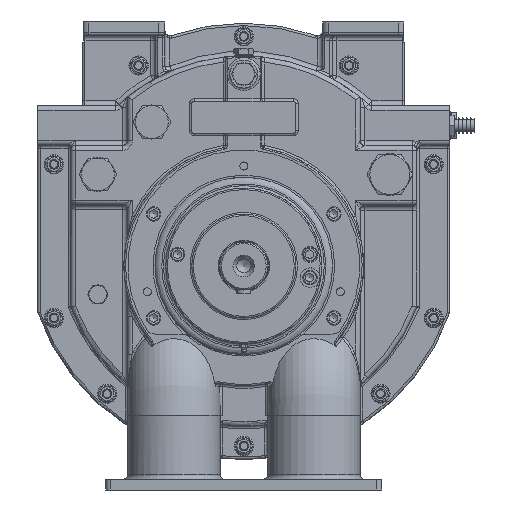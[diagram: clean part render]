
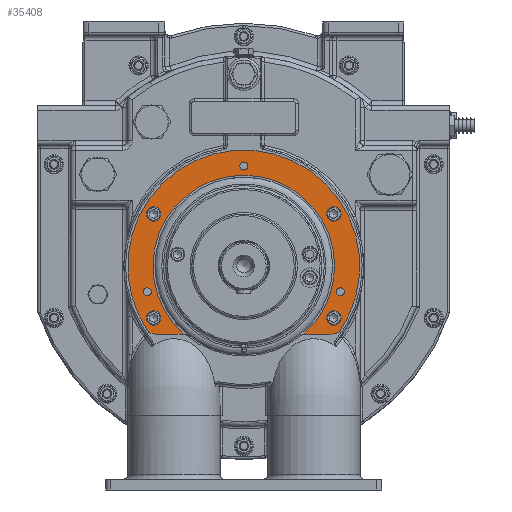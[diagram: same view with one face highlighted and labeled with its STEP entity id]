
A CAD part, left-side view. The second image highlights one B-rep face of the part: STEP entity #35408.
In plain terms, the highlighted planar face has unit normal (-1, 0, 0).
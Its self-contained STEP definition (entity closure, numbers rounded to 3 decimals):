
#1359=FACE_BOUND('',#5081,.T.);
#1360=FACE_BOUND('',#5082,.T.);
#1361=FACE_BOUND('',#5083,.T.);
#1362=FACE_BOUND('',#5084,.T.);
#1363=FACE_BOUND('',#5085,.T.);
#1364=FACE_BOUND('',#5086,.T.);
#1365=FACE_BOUND('',#5087,.T.);
#1884=PLANE('',#37990);
#2964=FACE_OUTER_BOUND('',#5080,.T.);
#5080=EDGE_LOOP('',(#24561,#24562,#24563,#24564,#24565,#24566,#24567,#24568));
#5081=EDGE_LOOP('',(#24569));
#5082=EDGE_LOOP('',(#24570));
#5083=EDGE_LOOP('',(#24571));
#5084=EDGE_LOOP('',(#24572));
#5085=EDGE_LOOP('',(#24573));
#5086=EDGE_LOOP('',(#24574));
#5087=EDGE_LOOP('',(#24575));
#7693=CIRCLE('',#37814,9.);
#7698=CIRCLE('',#37829,9.);
#7703=CIRCLE('',#37844,9.);
#7708=CIRCLE('',#37859,9.);
#7752=CIRCLE('',#37965,6.);
#7756=CIRCLE('',#37971,6.);
#7758=CIRCLE('',#37974,5.053);
#7760=CIRCLE('',#37977,5.053);
#7762=CIRCLE('',#37980,5.053);
#7770=CIRCLE('',#37991,20.);
#7771=CIRCLE('',#37992,145.);
#7772=CIRCLE('',#37993,20.);
#7773=CIRCLE('',#37994,113.5);
#9892=LINE('',#55406,#11833);
#9903=LINE('',#55504,#11844);
#11833=VECTOR('',#43596,10.);
#11844=VECTOR('',#43665,10.);
#14020=VERTEX_POINT('',#54804);
#14038=VERTEX_POINT('',#54872);
#14056=VERTEX_POINT('',#54940);
#14074=VERTEX_POINT('',#55008);
#14173=VERTEX_POINT('',#55403);
#14174=VERTEX_POINT('',#55405);
#14178=VERTEX_POINT('',#55415);
#14182=VERTEX_POINT('',#55427);
#14183=VERTEX_POINT('',#55429);
#14185=VERTEX_POINT('',#55435);
#14187=VERTEX_POINT('',#55441);
#14189=VERTEX_POINT('',#55447);
#14198=VERTEX_POINT('',#55503);
#14199=VERTEX_POINT('',#55505);
#14200=VERTEX_POINT('',#55507);
#17779=EDGE_CURVE('',#14020,#14020,#7693,.T.);
#17805=EDGE_CURVE('',#14038,#14038,#7698,.T.);
#17831=EDGE_CURVE('',#14056,#14056,#7703,.T.);
#17857=EDGE_CURVE('',#14074,#14074,#7708,.T.);
#18006=EDGE_CURVE('',#14173,#14174,#9892,.T.);
#18012=EDGE_CURVE('',#14178,#14173,#7752,.T.);
#18018=EDGE_CURVE('',#14182,#14183,#7756,.T.);
#18021=EDGE_CURVE('',#14185,#14185,#7758,.T.);
#18024=EDGE_CURVE('',#14187,#14187,#7760,.T.);
#18027=EDGE_CURVE('',#14189,#14189,#7762,.T.);
#18038=EDGE_CURVE('',#14198,#14182,#9903,.T.);
#18039=EDGE_CURVE('',#14199,#14198,#7770,.T.);
#18040=EDGE_CURVE('',#14200,#14199,#7771,.T.);
#18041=EDGE_CURVE('',#14174,#14200,#7772,.T.);
#18042=EDGE_CURVE('',#14183,#14178,#7773,.T.);
#24561=ORIENTED_EDGE('',*,*,#18018,.F.);
#24562=ORIENTED_EDGE('',*,*,#18038,.F.);
#24563=ORIENTED_EDGE('',*,*,#18039,.F.);
#24564=ORIENTED_EDGE('',*,*,#18040,.F.);
#24565=ORIENTED_EDGE('',*,*,#18041,.F.);
#24566=ORIENTED_EDGE('',*,*,#18006,.F.);
#24567=ORIENTED_EDGE('',*,*,#18012,.F.);
#24568=ORIENTED_EDGE('',*,*,#18042,.F.);
#24569=ORIENTED_EDGE('',*,*,#17779,.T.);
#24570=ORIENTED_EDGE('',*,*,#17805,.T.);
#24571=ORIENTED_EDGE('',*,*,#17831,.T.);
#24572=ORIENTED_EDGE('',*,*,#17857,.T.);
#24573=ORIENTED_EDGE('',*,*,#18021,.T.);
#24574=ORIENTED_EDGE('',*,*,#18024,.T.);
#24575=ORIENTED_EDGE('',*,*,#18027,.T.);
#35408=ADVANCED_FACE('',(#2964,#1359,#1360,#1361,#1362,#1363,#1364,#1365),
#1884,.F.);
#37814=AXIS2_PLACEMENT_3D('',#54805,#43187,#43188);
#37829=AXIS2_PLACEMENT_3D('',#54873,#43231,#43232);
#37844=AXIS2_PLACEMENT_3D('',#54941,#43275,#43276);
#37859=AXIS2_PLACEMENT_3D('',#55009,#43319,#43320);
#37965=AXIS2_PLACEMENT_3D('',#55417,#43606,#43607);
#37971=AXIS2_PLACEMENT_3D('',#55430,#43620,#43621);
#37974=AXIS2_PLACEMENT_3D('',#55436,#43627,#43628);
#37977=AXIS2_PLACEMENT_3D('',#55442,#43634,#43635);
#37980=AXIS2_PLACEMENT_3D('',#55448,#43641,#43642);
#37990=AXIS2_PLACEMENT_3D('',#55502,#43663,#43664);
#37991=AXIS2_PLACEMENT_3D('',#55506,#43666,#43667);
#37992=AXIS2_PLACEMENT_3D('',#55508,#43668,#43669);
#37993=AXIS2_PLACEMENT_3D('',#55509,#43670,#43671);
#37994=AXIS2_PLACEMENT_3D('',#55510,#43672,#43673);
#43187=DIRECTION('center_axis',(1.,0.,0.));
#43188=DIRECTION('ref_axis',(0.,1.,0.));
#43231=DIRECTION('center_axis',(1.,0.,0.));
#43232=DIRECTION('ref_axis',(0.,1.,0.));
#43275=DIRECTION('center_axis',(1.,0.,0.));
#43276=DIRECTION('ref_axis',(0.,1.,0.));
#43319=DIRECTION('center_axis',(1.,0.,0.));
#43320=DIRECTION('ref_axis',(0.,1.,0.));
#43596=DIRECTION('',(0.,1.,0.));
#43606=DIRECTION('center_axis',(-1.,0.,0.));
#43607=DIRECTION('ref_axis',(0.,-0.341,0.94));
#43620=DIRECTION('center_axis',(-1.,0.,0.));
#43621=DIRECTION('ref_axis',(0.,0.341,0.94));
#43627=DIRECTION('center_axis',(1.,0.,0.));
#43628=DIRECTION('ref_axis',(0.,1.,0.));
#43634=DIRECTION('center_axis',(1.,0.,0.));
#43635=DIRECTION('ref_axis',(0.,1.,0.));
#43641=DIRECTION('center_axis',(1.,0.,0.));
#43642=DIRECTION('ref_axis',(0.,1.,0.));
#43663=DIRECTION('center_axis',(1.,0.,0.));
#43664=DIRECTION('ref_axis',(0.,-1.,0.));
#43665=DIRECTION('',(0.,1.,0.));
#43666=DIRECTION('center_axis',(1.,0.,0.));
#43667=DIRECTION('ref_axis',(0.,-0.496,-0.868));
#43668=DIRECTION('center_axis',(1.,0.,0.));
#43669=DIRECTION('ref_axis',(0.,1.,0.));
#43670=DIRECTION('center_axis',(1.,0.,0.));
#43671=DIRECTION('ref_axis',(0.,0.496,-0.868));
#43672=DIRECTION('center_axis',(-1.,0.,0.));
#43673=DIRECTION('ref_axis',(0.,-1.,0.));
#54804=CARTESIAN_POINT('',(-327.25,103.583,-96.));
#54805=CARTESIAN_POINT('Origin',(-327.25,112.583,-96.));
#54872=CARTESIAN_POINT('',(-327.25,103.583,34.));
#54873=CARTESIAN_POINT('Origin',(-327.25,112.583,34.));
#54940=CARTESIAN_POINT('',(-327.25,-121.583,34.));
#54941=CARTESIAN_POINT('Origin',(-327.25,-112.583,34.));
#55008=CARTESIAN_POINT('',(-327.25,-121.583,-96.));
#55009=CARTESIAN_POINT('Origin',(-327.25,-112.583,-96.));
#55403=CARTESIAN_POINT('',(-327.25,75.903,-116.));
#55405=CARTESIAN_POINT('',(-327.25,110.268,-116.));
#55406=CARTESIAN_POINT('',(-327.25,36.849,-116.));
#55415=CARTESIAN_POINT('',(-327.25,75.163,-116.046));
#55417=CARTESIAN_POINT('Origin',(-327.25,75.903,-122.));
#55427=CARTESIAN_POINT('',(-327.25,-75.903,-116.));
#55429=CARTESIAN_POINT('',(-327.25,-75.163,-116.046));
#55430=CARTESIAN_POINT('Origin',(-327.25,-75.903,-122.));
#55435=CARTESIAN_POINT('',(-327.25,-5.053,94.));
#55436=CARTESIAN_POINT('Origin',(-327.25,0.,
94.));
#55441=CARTESIAN_POINT('',(-327.25,-125.794,-63.352));
#55442=CARTESIAN_POINT('Origin',(-327.25,-120.741,-63.352));
#55447=CARTESIAN_POINT('',(-327.25,115.688,-63.352));
#55448=CARTESIAN_POINT('Origin',(-327.25,120.741,-63.352));
#55502=CARTESIAN_POINT('Origin',(-327.25,0.,
-31.));
#55503=CARTESIAN_POINT('',(-327.25,-110.268,-116.));
#55504=CARTESIAN_POINT('',(-327.25,-60.578,-116.));
#55505=CARTESIAN_POINT('',(-327.25,-118.849,-114.065));
#55506=CARTESIAN_POINT('Origin',(-327.25,-110.268,-96.));
#55507=CARTESIAN_POINT('',(-327.25,118.849,-114.065));
#55508=CARTESIAN_POINT('Origin',(-327.25,0.,
-31.));
#55509=CARTESIAN_POINT('Origin',(-327.25,110.268,-96.));
#55510=CARTESIAN_POINT('Origin',(-327.25,0.,
-31.));
